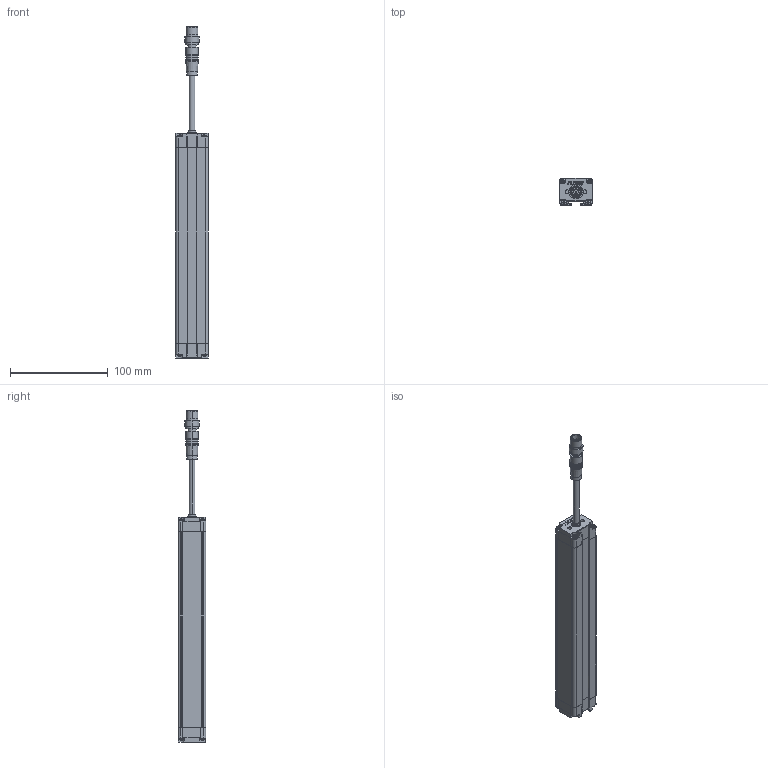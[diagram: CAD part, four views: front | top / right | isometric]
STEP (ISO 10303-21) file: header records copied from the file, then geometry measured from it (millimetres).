
FILE_DESCRIPTION((''),'2;1');
FILE_NAME('SMT1-CGQ_ASM','2025-08-08T08:20:08',('Administrator'),(''),'CREO PARAMETRIC BY PTC INC, 2016510','CREO PARAMETRIC BY PTC INC, 2016510','');
FILE_SCHEMA(('CONFIG_CONTROL_DESIGN'));
Length unit declared in the file: millimetre
Products named in the file (7): SMT1-XINGCAI-V1; SMT1-SDG-V1; SMT1-XDG-V1; M12-CHATOU; ST3X18; CT4-LVGUANGBAN; SMT1-CGQ_ASM
Assembly tree (13 placements, depth 2):
  SMT1-CGQ_ASM
    SMT1-XINGCAI-V1
    SMT1-SDG-V1
    SMT1-XDG-V1
    M12-CHATOU
    ST3X18  x8
    CT4-LVGUANGBAN
Bounding box: 33 x 28.02 x 339.5 mm (x, y, z)
Volume: 184592.9 mm3; surface area: 64838.4 mm2
Topology: 13 solids, 13 shells, 712 faces, 1868 edges, 1200 vertices
Faces by surface type: plane 382, cylinder 184, extrusion 86, sphere 32, cone 20, bspline 8
Entity records: 18128 total; most frequent: CARTESIAN_POINT 4347, ORIENTED_EDGE 2916, DIRECTION 2580, EDGE_CURVE 1458, VECTOR 1036, VERTEX_POINT 955, LINE 950, AXIS2_PLACEMENT_3D 772
